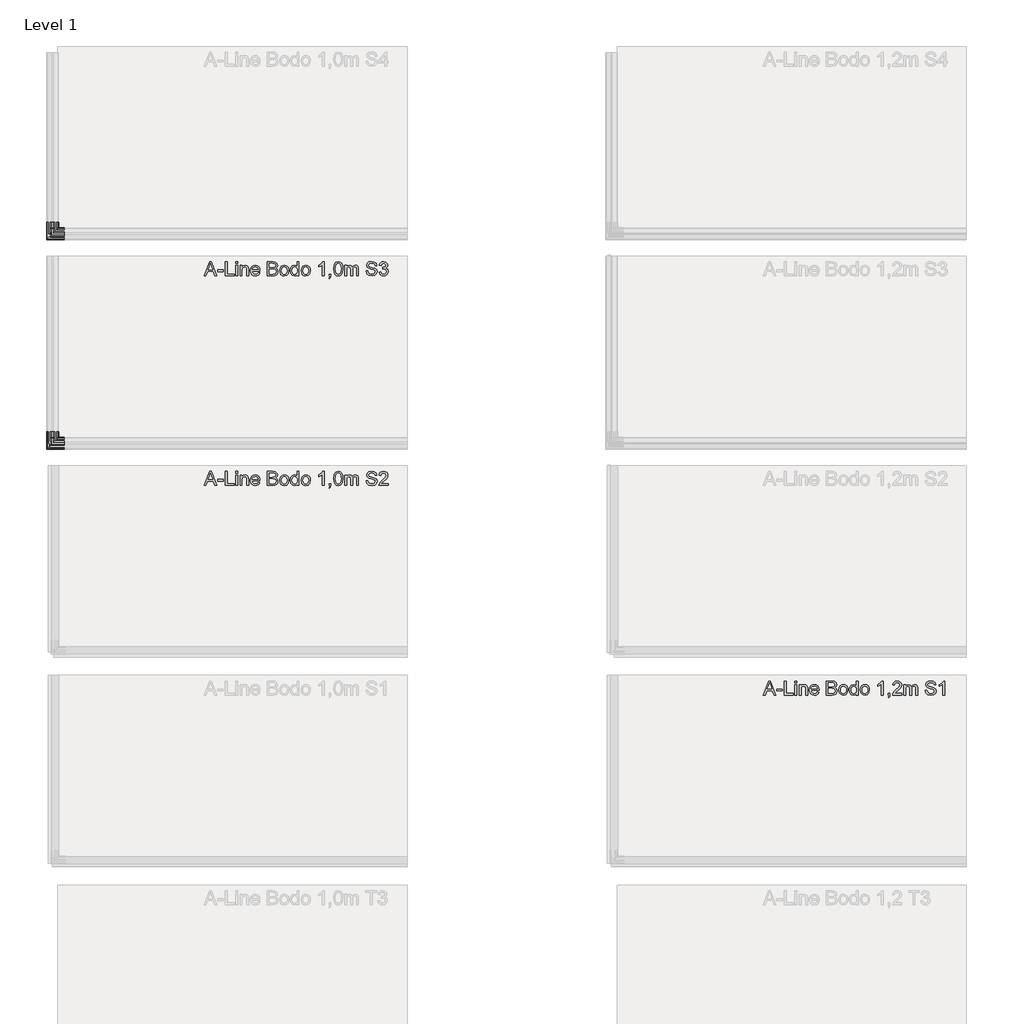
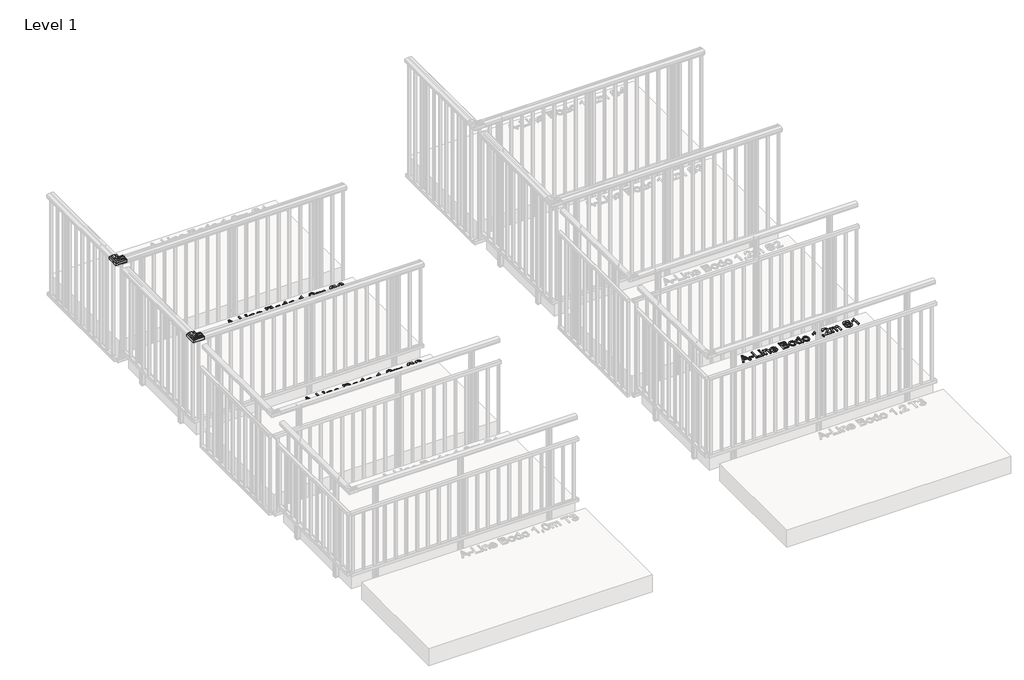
# One storey, part 50 of 66: 5 proxies.
"""IFC4 building model written with IfcOpenShell, lengths in millimetres."""

from ifc_helpers import new_model, si_unit, origin, origin_with_axes, place, context, project, spatial, polyline, outline, extrude, transform, mapped, element, save
from components import generic_models_224f447f

model = new_model("IFC4")

# Units and contexts
model_context = context("Model", 3, world=origin())
ifc_project = project(units=[si_unit("LENGTHUNIT", "METRE", prefix="MILLI")], contexts=[model_context])

# Site, building, storey
site = spatial("IfcSite", under=ifc_project)
building = spatial("IfcBuilding", under=site)
storey = spatial("IfcBuildingStorey", under=building, Name="Level 1", Elevation=0.0)

# Proxies
placement = place(None, origin())
generic_models_shape = generic_models_224f447f(model_context)
element("IfcBuildingElementProxy", 1, Name="Innore top rail 81x35 corner element : Innore top rail 81x35 element", ObjectType="Innore top rail 81x35 corner element : Innore top rail 81x35 element", at=placement, inside=storey, context=model_context, shape_type="MappedRepresentation", body=[
    mapped(generic_models_shape, transform((4465.5540282, -14608.211505, 1000.0), x_axis=(0.0, -1.0, 0.0), y_axis=(1.0, 0.0, 0.0), z_axis=(0.0, 0.0, 1.0))),
])
element("IfcBuildingElementProxy", 2, Name="Innore top rail 81x35 corner element : Innore top rail 81x35 element", ObjectType="Innore top rail 81x35 corner element : Innore top rail 81x35 element", at=placement, inside=storey, context=model_context, shape_type="MappedRepresentation", body=[
    mapped(generic_models_shape, transform((4465.4055183, -13109.7805179, 1000.0), x_axis=(0.0, -1.0, 0.0), y_axis=(1.0, 0.0, 0.0), z_axis=(0.0, 0.0, 1.0))),
])
element("IfcBuildingElementProxy", 3, Name="100mm Arial", ObjectType="100mm Arial", at=placement, inside=storey, context=model_context, shape_type="SweptSolid", body=[
    extrude(outline(polyline([(5549.8662562, -14909.7113559), (5589.9653937, -14809.2550458), (5600.658497, -14809.2550458), (5640.7576345, -14909.7113559), (5627.4893572, -14909.7113559), (5615.9869135, -14878.318759), (5574.6124518, -14878.318759), (5563.1345335, -14909.7113559), (5549.8662562, -14909.7113559)]), holes=[polyline([(5579.2232395, -14865.7617202), (5611.4006513, -14865.7617202), (5602.3507542, -14841.0645756), (5595.3119454, -14821.8120845), (5589.0579515, -14838.9063346), (5579.2232395, -14865.7617202)])]), origin_with_axes(), (0.0, 0.0, 1.0), 10.0),
    extrude(outline(polyline([(5646.3249154, -14879.8883888), (5646.3249154, -14867.3313501), (5685.5656615, -14867.3313501), (5685.5656615, -14879.8883888), (5646.3249154, -14879.8883888)])), origin_with_axes(), (0.0, 0.0, 1.0), 10.0),
    extrude(outline(polyline([(5701.26196, -14909.7113559), (5701.26196, -14809.2550458), (5713.8189988, -14809.2550458), (5713.8189988, -14897.1543171), (5764.0471538, -14897.1543171), (5764.0471538, -14909.7113559), (5701.26196, -14909.7113559)])), origin_with_axes(), (0.0, 0.0, 1.0), 10.0),
    extrude(outline(polyline([(5776.6041926, -14821.8120845), (5776.6041926, -14809.2550458), (5789.1612314, -14809.2550458), (5789.1612314, -14821.8120845), (5776.6041926, -14821.8120845)])), origin_with_axes(), (0.0, 0.0, 1.0), 10.0),
    extrude(outline(polyline([(5776.6041926, -14909.7113559), (5776.6041926, -14835.9387532), (5789.1612314, -14835.9387532), (5789.1612314, -14909.7113559), (5776.6041926, -14909.7113559)])), origin_with_axes(), (0.0, 0.0, 1.0), 10.0),
    extrude(outline(polyline([(5807.9967895, -14909.7113559), (5807.9967895, -14835.9387532), (5820.5538283, -14835.9387532), (5820.5538283, -14846.239449), (5830.1555484, -14837.3367047), (5843.2644101, -14834.3691233), (5855.1224731, -14836.7603563), (5863.215877, -14843.0388757), (5866.9805361, -14852.2727137), (5867.6427237, -14864.4128196), (5867.6427237, -14909.7113559), (5855.0856849, -14909.7113559), (5855.0856849, -14866.1050768), (5853.6386824, -14854.9950405), (5848.5251227, -14849.1211913), (5839.9044212, -14846.9261621), (5826.2805247, -14851.8557808), (5821.9855024, -14858.9988229), (5820.5538283, -14870.5687116), (5820.5538283, -14909.7113559), (5807.9967895, -14909.7113559)])), origin_with_axes(), (0.0, 0.0, 1.0), 10.0),
    extrude(outline(polyline([(5936.5592841, -14887.7365381), (5948.8710682, -14889.3061679), (5944.4350245, -14898.5829256), (5937.3563618, -14905.5175012), (5927.7944956, -14909.8401146), (5915.9088414, -14911.2809858), (5901.1751675, -14908.7947166), (5889.8382707, -14901.3359092), (5882.6093895, -14889.3889414), (5880.1997624, -14873.4381912), (5882.633915, -14856.9509464), (5889.9363726, -14844.6207682), (5901.1199852, -14836.9320345), (5915.1976029, -14834.3691233), (5928.8368279, -14836.9259032), (5939.735332, -14844.5962428), (5946.8814398, -14856.9018955), (5949.2634757, -14873.3646148), (5949.1898993, -14876.7491291), (5892.7568012, -14876.7491291), (5894.9303707, -14886.1485141), (5899.9795511, -14893.0585643), (5907.2666802, -14897.3076013), (5916.1540961, -14898.723947), (5928.4658802, -14896.0997221), (5936.5592841, -14887.7365381)]), holes=[polyline([(5892.7568012, -14864.1920904), (5936.7064369, -14864.1920904), (5931.6787163, -14852.812274), (5924.3578646, -14848.3976901), (5915.148552, -14846.9261621), (5899.6852455, -14851.6227889), (5894.8200061, -14857.1134277), (5892.7568012, -14864.1920904)])]), origin_with_axes(), (0.0, 0.0, 1.0), 10.0),
    extrude(outline(polyline([(6002.6308904, -14909.7113559), (6002.6308904, -14809.2550458), (6040.9641943, -14809.2550458), (6059.7384388, -14812.2103645), (6070.8239496, -14821.2970497), (6074.8338634, -14834.1483941), (6071.4616117, -14845.8838298), (6061.2712805, -14854.7743113), (6073.6443782, -14864.1430394), (6077.973123, -14879.7657615), (6075.0178044, -14893.2670307), (6067.6969527, -14902.8810135), (6056.7708574, -14907.9823105), (6040.6698887, -14909.7113559), (6002.6308904, -14909.7113559)]), holes=[polyline([(6015.1879292, -14897.1543171), (6040.9396689, -14897.1543171), (6050.2593461, -14896.6638078), (6058.1442835, -14893.9292183), (6063.3682078, -14888.3496747), (6065.4160843, -14879.8883888), (6063.0125886, -14870.1272532), (6055.225753, -14864.302455), (6039.7133956, -14862.6224605), (6015.1879292, -14862.6224605), (6015.1879292, -14897.1543171)]), polyline([(6015.1879292, -14850.0654218), (6038.1192402, -14850.0654218), (6051.5101449, -14848.9863012), (6059.5667606, -14844.3387254), (6062.2768246, -14836.1594823), (6059.7507016, -14827.9679766), (6052.515689, -14823.124197), (6036.3779321, -14821.8120845), (6015.1879292, -14821.8120845), (6015.1879292, -14850.0654218)])]), origin_with_axes(), (0.0, 0.0, 1.0), 10.0),
    extrude(outline(polyline([(6090.5301618, -14872.8250545), (6093.2463572, -14855.0379601), (6101.3949434, -14842.5361036), (6111.4626473, -14836.4108684), (6123.5169141, -14834.3691233), (6136.7085493, -14836.8553925), (6147.2453027, -14844.3141999), (6154.1522872, -14856.1569345), (6156.4546154, -14871.7949849), (6152.3833879, -14894.1376848), (6140.525325, -14906.7805627), (6123.5169141, -14911.2809858), (6110.1658633, -14908.8039137), (6099.6413726, -14901.3726974), (6092.8079645, -14889.2816425), (6090.5301618, -14872.8250545)]), holes=[polyline([(6103.0872006, -14872.8005291), (6104.5403345, -14884.165017), (6108.8997361, -14892.2614866), (6115.4602984, -14897.1083319), (6123.5169141, -14898.723947), (6131.5367415, -14897.0991348), (6138.0850411, -14892.2246984), (6142.4444427, -14884.0209299), (6143.8975766, -14872.4081216), (6142.4352457, -14861.3747274), (6138.0482529, -14853.3886225), (6131.4907563, -14848.5417772), (6123.5169141, -14846.9261621), (6115.4602984, -14848.5356458), (6108.8997361, -14853.364097), (6104.5403345, -14861.4421725), (6103.0872006, -14872.8005291)])]), origin_with_axes(), (0.0, 0.0, 1.0), 10.0),
    extrude(outline(polyline([(6216.1005495, -14909.7113559), (6216.1005495, -14897.8655557), (6207.7925478, -14907.9271282), (6196.3084982, -14911.2809858), (6180.7593525, -14906.4249434), (6169.7719436, -14892.8746233), (6165.8723944, -14872.8986309), (6169.4653753, -14852.9103759), (6180.232055, -14839.1515892), (6196.2594472, -14834.3691233), (6207.8354673, -14837.7904259), (6216.1005495, -14846.6809074), (6216.1005495, -14809.2550458), (6228.6575883, -14809.2550458), (6228.6575883, -14909.7113559), (6216.1005495, -14909.7113559)]), holes=[polyline([(6178.4294332, -14872.84958), (6179.8457789, -14884.2079366), (6184.0948159, -14892.2860121), (6190.2691021, -14897.1144633), (6197.4611951, -14898.723947), (6204.6502224, -14897.1880397), (6210.6681587, -14892.5803177), (6214.7424518, -14884.8149419), (6216.1005495, -14873.8060732), (6214.7179263, -14861.7702006), (6210.5700568, -14853.4254107), (6204.3988364, -14848.5509742), (6196.9461603, -14846.9261621), (6189.6804909, -14848.4865949), (6183.7269339, -14853.1678933), (6179.7538084, -14861.2091805), (6178.4294332, -14872.84958)])]), origin_with_axes(), (0.0, 0.0, 1.0), 10.0),
    extrude(outline(polyline([(6244.3538867, -14872.8250545), (6247.0700821, -14855.0379601), (6255.2186683, -14842.5361036), (6265.2863723, -14836.4108684), (6277.340639, -14834.3691233), (6290.5322742, -14836.8553925), (6301.0690277, -14844.3141999), (6307.9760121, -14856.1569345), (6310.2783403, -14871.7949849), (6306.2071129, -14894.1376848), (6294.3490499, -14906.7805627), (6277.340639, -14911.2809858), (6263.9895882, -14908.8039137), (6253.4650975, -14901.3726974), (6246.6316894, -14889.2816425), (6244.3538867, -14872.8250545)]), holes=[polyline([(6256.9109255, -14872.8005291), (6258.3640594, -14884.165017), (6262.723461, -14892.2614866), (6269.2840233, -14897.1083319), (6277.340639, -14898.723947), (6285.3604665, -14897.0991348), (6291.908766, -14892.2246984), (6296.2681676, -14884.0209299), (6297.7213015, -14872.4081216), (6296.2589706, -14861.3747274), (6291.8719778, -14853.3886225), (6285.3144812, -14848.5417772), (6277.340639, -14846.9261621), (6269.2840233, -14848.5356458), (6262.723461, -14853.364097), (6258.3640594, -14861.4421725), (6256.9109255, -14872.8005291)])]), origin_with_axes(), (0.0, 0.0, 1.0), 10.0),
    extrude(outline(polyline([(6407.5953907, -14909.7113559), (6395.038352, -14909.7113559), (6395.038352, -14831.4260673), (6383.1435008, -14839.899616), (6369.9242744, -14846.239449), (6369.9242744, -14834.3691233), (6388.3306369, -14822.6214249), (6399.5019868, -14809.2550458), (6407.5953907, -14809.2550458), (6407.5953907, -14909.7113559)])), origin_with_axes(), (0.0, 0.0, 1.0), 10.0),
    extrude(outline(polyline([(6443.6968772, -14909.7113559), (6443.6968772, -14897.1543171), (6456.253916, -14897.1543171), (6456.253916, -14909.7113559), (6453.9975731, -14922.5504375), (6446.8361369, -14930.1165439), (6443.6968772, -14925.4076544), (6448.3076649, -14919.9875263), (6449.9508711, -14909.7113559), (6443.6968772, -14909.7113559)])), origin_with_axes(), (0.0, 0.0, 1.0), 10.0),
    extrude(outline(polyline([(6476.659104, -14860.2925412), (6480.3501866, -14831.3892791), (6491.3130701, -14814.7242248), (6509.6213307, -14809.2550458), (6524.2875596, -14812.4924073), (6534.4165772, -14821.8243473), (6540.3026891, -14836.6867799), (6542.5835575, -14860.2925412), (6538.929263, -14889.073176), (6528.0031677, -14905.7750186), (6519.7718081, -14909.904494), (6509.6213307, -14911.2809858), (6496.5737826, -14908.8897528), (6486.6654942, -14901.7160539), (6479.1607015, -14884.7260371), (6476.659104, -14860.2925412)]), holes=[polyline([(6489.2161427, -14860.2680158), (6490.6876707, -14880.0202132), (6495.1022546, -14891.4521462), (6501.6750796, -14896.9059968), (6509.6213307, -14898.723947), (6517.5675818, -14896.8998654), (6524.1404068, -14891.4276208), (6528.5549907, -14879.9895564), (6530.0265187, -14860.2680158), (6528.6040417, -14840.9603424), (6524.3366105, -14829.4395046), (6517.7760483, -14823.7189395), (6509.4741779, -14821.8120845), (6501.613766, -14823.492079), (6495.2984584, -14828.5320623), (6490.7367216, -14840.77027), (6489.2161427, -14860.2680158)])]), origin_with_axes(), (0.0, 0.0, 1.0), 10.0),
    extrude(outline(polyline([(6556.7102261, -14909.7113559), (6556.7102261, -14835.9387532), (6569.2672649, -14835.9387532), (6569.2672649, -14848.078859), (6577.900229, -14838.1337824), (6590.1874877, -14834.3691233), (6602.7690519, -14838.2073588), (6609.6852334, -14848.9617758), (6619.4831572, -14838.0172864), (6631.856255, -14834.3691233), (6641.2954938, -14835.8866365), (6648.2760547, -14840.4391762), (6652.5894711, -14848.1493697), (6654.0272766, -14859.1398443), (6654.0272766, -14909.7113559), (6641.4702378, -14909.7113559), (6641.4702378, -14864.5354469), (6640.3052781, -14854.05081), (6636.0868979, -14848.8881994), (6628.913199, -14846.9261621), (6616.5646267, -14851.9538827), (6612.8766097, -14858.4960508), (6611.6472707, -14868.0671141), (6611.6472707, -14909.7113559), (6599.090232, -14909.7113559), (6599.090232, -14863.1374953), (6596.1839642, -14850.972864), (6586.6558205, -14846.9261621), (6577.3606688, -14849.6239634), (6571.1802513, -14857.5211635), (6569.2672649, -14872.5062235), (6569.2672649, -14909.7113559), (6556.7102261, -14909.7113559)])), origin_with_axes(), (0.0, 0.0, 1.0), 10.0),
    extrude(outline(polyline([(6708.9643212, -14875.1794993), (6721.5213599, -14875.1794993), (6725.5680619, -14887.7488008), (6735.4518248, -14895.6950519), (6750.5104612, -14898.723947), (6763.6315857, -14896.4308159), (6772.1051343, -14890.127771), (6774.8887747, -14881.7032734), (6772.8041101, -14873.8673869), (6764.2692478, -14868.1652159), (6745.9855126, -14863.3704873), (6726.3038259, -14857.177807), (6715.6229853, -14847.8336043), (6712.1035809, -14835.350142), (6716.4568511, -14821.1376342), (6729.1733054, -14811.1067185), (6747.7881344, -14807.6854159), (6767.6537621, -14811.266134), (6780.897514, -14821.7875591), (6785.8761836, -14837.508383), (6773.3191449, -14837.508383), (6771.013751, -14830.015853), (6766.2067596, -14824.6079877), (6748.2786437, -14820.2424547), (6730.3014769, -14824.5589368), (6724.6606196, -14834.98226), (6728.6582707, -14843.6888005), (6749.1615605, -14850.7030839), (6771.381633, -14857.0061287), (6783.5340016, -14867.1841973), (6787.4458135, -14881.3844423), (6782.9453904, -14896.4062904), (6769.9959442, -14907.3691739), (6751.0009705, -14911.2809858), (6728.5724315, -14907.0626056), (6714.3844492, -14894.358414), (6708.9643212, -14875.1794993)])), origin_with_axes(), (0.0, 0.0, 1.0), 10.0),
    extrude(outline(polyline([(6865.9273058, -14897.1543171), (6865.9273058, -14909.7113559), (6800.0028523, -14909.7113559), (6801.3517529, -14901.0538663), (6808.9791729, -14887.7242753), (6824.6999969, -14873.1684111), (6846.3805091, -14852.2481883), (6851.8006372, -14838.0234178), (6846.6870774, -14826.5087113), (6833.332961, -14821.8120845), (6819.4147589, -14826.3983467), (6814.1295209, -14839.0780128), (6801.5724821, -14837.508383), (6804.6167056, -14825.3621458), (6811.1987276, -14816.4900583), (6820.9751917, -14811.0637989), (6833.6027411, -14809.2550458), (6846.3222611, -14811.266134), (6856.080331, -14817.2993987), (6862.2883397, -14826.3125076), (6864.3576759, -14837.2631283), (6862.1258585, -14849.1702422), (6854.7069049, -14861.4820263), (6836.7174754, -14878.686641), (6822.2719757, -14890.7654332), (6816.606593, -14897.1543171), (6865.9273058, -14897.1543171)])), origin_with_axes(), (0.0, 0.0, 1.0), 10.0),
])
element("IfcBuildingElementProxy", 4, Name="100mm Arial", ObjectType="100mm Arial", at=placement, inside=storey, context=model_context, shape_type="SweptSolid", body=[
    extrude(outline(polyline([(5549.8662562, -13409.7113559), (5589.9653937, -13309.2550458), (5600.658497, -13309.2550458), (5640.7576345, -13409.7113559), (5627.4893572, -13409.7113559), (5615.9869135, -13378.318759), (5574.6124518, -13378.318759), (5563.1345335, -13409.7113559), (5549.8662562, -13409.7113559)]), holes=[polyline([(5579.2232395, -13365.7617202), (5611.4006513, -13365.7617202), (5602.3507542, -13341.0645756), (5595.3119454, -13321.8120845), (5589.0579515, -13338.9063346), (5579.2232395, -13365.7617202)])]), origin_with_axes(), (0.0, 0.0, 1.0), 10.0),
    extrude(outline(polyline([(5646.3249154, -13379.8883888), (5646.3249154, -13367.3313501), (5685.5656615, -13367.3313501), (5685.5656615, -13379.8883888), (5646.3249154, -13379.8883888)])), origin_with_axes(), (0.0, 0.0, 1.0), 10.0),
    extrude(outline(polyline([(5701.26196, -13409.7113559), (5701.26196, -13309.2550458), (5713.8189988, -13309.2550458), (5713.8189988, -13397.1543171), (5764.0471538, -13397.1543171), (5764.0471538, -13409.7113559), (5701.26196, -13409.7113559)])), origin_with_axes(), (0.0, 0.0, 1.0), 10.0),
    extrude(outline(polyline([(5776.6041926, -13321.8120845), (5776.6041926, -13309.2550458), (5789.1612314, -13309.2550458), (5789.1612314, -13321.8120845), (5776.6041926, -13321.8120845)])), origin_with_axes(), (0.0, 0.0, 1.0), 10.0),
    extrude(outline(polyline([(5776.6041926, -13409.7113559), (5776.6041926, -13335.9387532), (5789.1612314, -13335.9387532), (5789.1612314, -13409.7113559), (5776.6041926, -13409.7113559)])), origin_with_axes(), (0.0, 0.0, 1.0), 10.0),
    extrude(outline(polyline([(5807.9967895, -13409.7113559), (5807.9967895, -13335.9387532), (5820.5538283, -13335.9387532), (5820.5538283, -13346.239449), (5830.1555484, -13337.3367047), (5843.2644101, -13334.3691233), (5855.1224731, -13336.7603563), (5863.215877, -13343.0388757), (5866.9805361, -13352.2727137), (5867.6427237, -13364.4128196), (5867.6427237, -13409.7113559), (5855.0856849, -13409.7113559), (5855.0856849, -13366.1050768), (5853.6386824, -13354.9950405), (5848.5251227, -13349.1211913), (5839.9044212, -13346.9261621), (5826.2805247, -13351.8557808), (5821.9855024, -13358.9988229), (5820.5538283, -13370.5687116), (5820.5538283, -13409.7113559), (5807.9967895, -13409.7113559)])), origin_with_axes(), (0.0, 0.0, 1.0), 10.0),
    extrude(outline(polyline([(5936.5592841, -13387.7365381), (5948.8710682, -13389.3061679), (5944.4350245, -13398.5829256), (5937.3563618, -13405.5175012), (5927.7944956, -13409.8401146), (5915.9088414, -13411.2809858), (5901.1751675, -13408.7947166), (5889.8382707, -13401.3359092), (5882.6093895, -13389.3889414), (5880.1997624, -13373.4381912), (5882.633915, -13356.9509464), (5889.9363726, -13344.6207682), (5901.1199852, -13336.9320345), (5915.1976029, -13334.3691233), (5928.8368279, -13336.9259032), (5939.735332, -13344.5962428), (5946.8814398, -13356.9018955), (5949.2634757, -13373.3646148), (5949.1898993, -13376.7491291), (5892.7568012, -13376.7491291), (5894.9303707, -13386.1485141), (5899.9795511, -13393.0585643), (5907.2666802, -13397.3076013), (5916.1540961, -13398.723947), (5928.4658802, -13396.0997221), (5936.5592841, -13387.7365381)]), holes=[polyline([(5892.7568012, -13364.1920904), (5936.7064369, -13364.1920904), (5931.6787163, -13352.812274), (5924.3578646, -13348.3976901), (5915.148552, -13346.9261621), (5899.6852455, -13351.6227889), (5894.8200061, -13357.1134277), (5892.7568012, -13364.1920904)])]), origin_with_axes(), (0.0, 0.0, 1.0), 10.0),
    extrude(outline(polyline([(6002.6308904, -13409.7113559), (6002.6308904, -13309.2550458), (6040.9641943, -13309.2550458), (6059.7384388, -13312.2103645), (6070.8239496, -13321.2970497), (6074.8338634, -13334.1483941), (6071.4616117, -13345.8838298), (6061.2712805, -13354.7743113), (6073.6443782, -13364.1430394), (6077.973123, -13379.7657615), (6075.0178044, -13393.2670307), (6067.6969527, -13402.8810135), (6056.7708574, -13407.9823105), (6040.6698887, -13409.7113559), (6002.6308904, -13409.7113559)]), holes=[polyline([(6015.1879292, -13397.1543171), (6040.9396689, -13397.1543171), (6050.2593461, -13396.6638078), (6058.1442835, -13393.9292183), (6063.3682078, -13388.3496747), (6065.4160843, -13379.8883888), (6063.0125886, -13370.1272532), (6055.225753, -13364.302455), (6039.7133956, -13362.6224605), (6015.1879292, -13362.6224605), (6015.1879292, -13397.1543171)]), polyline([(6015.1879292, -13350.0654218), (6038.1192402, -13350.0654218), (6051.5101449, -13348.9863012), (6059.5667606, -13344.3387254), (6062.2768246, -13336.1594823), (6059.7507016, -13327.9679766), (6052.515689, -13323.124197), (6036.3779321, -13321.8120845), (6015.1879292, -13321.8120845), (6015.1879292, -13350.0654218)])]), origin_with_axes(), (0.0, 0.0, 1.0), 10.0),
    extrude(outline(polyline([(6090.5301618, -13372.8250545), (6093.2463572, -13355.0379601), (6101.3949434, -13342.5361036), (6111.4626473, -13336.4108684), (6123.5169141, -13334.3691233), (6136.7085493, -13336.8553925), (6147.2453027, -13344.3141999), (6154.1522872, -13356.1569345), (6156.4546154, -13371.7949849), (6152.3833879, -13394.1376848), (6140.525325, -13406.7805627), (6123.5169141, -13411.2809858), (6110.1658633, -13408.8039137), (6099.6413726, -13401.3726974), (6092.8079645, -13389.2816425), (6090.5301618, -13372.8250545)]), holes=[polyline([(6103.0872006, -13372.8005291), (6104.5403345, -13384.165017), (6108.8997361, -13392.2614866), (6115.4602984, -13397.1083319), (6123.5169141, -13398.723947), (6131.5367415, -13397.0991348), (6138.0850411, -13392.2246984), (6142.4444427, -13384.0209299), (6143.8975766, -13372.4081216), (6142.4352457, -13361.3747274), (6138.0482529, -13353.3886225), (6131.4907563, -13348.5417772), (6123.5169141, -13346.9261621), (6115.4602984, -13348.5356458), (6108.8997361, -13353.364097), (6104.5403345, -13361.4421725), (6103.0872006, -13372.8005291)])]), origin_with_axes(), (0.0, 0.0, 1.0), 10.0),
    extrude(outline(polyline([(6216.1005495, -13409.7113559), (6216.1005495, -13397.8655557), (6207.7925478, -13407.9271282), (6196.3084982, -13411.2809858), (6180.7593525, -13406.4249434), (6169.7719436, -13392.8746233), (6165.8723944, -13372.8986309), (6169.4653753, -13352.9103759), (6180.232055, -13339.1515892), (6196.2594472, -13334.3691233), (6207.8354673, -13337.7904259), (6216.1005495, -13346.6809074), (6216.1005495, -13309.2550458), (6228.6575883, -13309.2550458), (6228.6575883, -13409.7113559), (6216.1005495, -13409.7113559)]), holes=[polyline([(6178.4294332, -13372.84958), (6179.8457789, -13384.2079366), (6184.0948159, -13392.2860121), (6190.2691021, -13397.1144633), (6197.4611951, -13398.723947), (6204.6502224, -13397.1880397), (6210.6681587, -13392.5803177), (6214.7424518, -13384.8149419), (6216.1005495, -13373.8060732), (6214.7179263, -13361.7702006), (6210.5700568, -13353.4254107), (6204.3988364, -13348.5509742), (6196.9461603, -13346.9261621), (6189.6804909, -13348.4865949), (6183.7269339, -13353.1678933), (6179.7538084, -13361.2091805), (6178.4294332, -13372.84958)])]), origin_with_axes(), (0.0, 0.0, 1.0), 10.0),
    extrude(outline(polyline([(6244.3538867, -13372.8250545), (6247.0700821, -13355.0379601), (6255.2186683, -13342.5361036), (6265.2863723, -13336.4108684), (6277.340639, -13334.3691233), (6290.5322742, -13336.8553925), (6301.0690277, -13344.3141999), (6307.9760121, -13356.1569345), (6310.2783403, -13371.7949849), (6306.2071129, -13394.1376848), (6294.3490499, -13406.7805627), (6277.340639, -13411.2809858), (6263.9895882, -13408.8039137), (6253.4650975, -13401.3726974), (6246.6316894, -13389.2816425), (6244.3538867, -13372.8250545)]), holes=[polyline([(6256.9109255, -13372.8005291), (6258.3640594, -13384.165017), (6262.723461, -13392.2614866), (6269.2840233, -13397.1083319), (6277.340639, -13398.723947), (6285.3604665, -13397.0991348), (6291.908766, -13392.2246984), (6296.2681676, -13384.0209299), (6297.7213015, -13372.4081216), (6296.2589706, -13361.3747274), (6291.8719778, -13353.3886225), (6285.3144812, -13348.5417772), (6277.340639, -13346.9261621), (6269.2840233, -13348.5356458), (6262.723461, -13353.364097), (6258.3640594, -13361.4421725), (6256.9109255, -13372.8005291)])]), origin_with_axes(), (0.0, 0.0, 1.0), 10.0),
    extrude(outline(polyline([(6407.5953907, -13409.7113559), (6395.038352, -13409.7113559), (6395.038352, -13331.4260673), (6383.1435008, -13339.899616), (6369.9242744, -13346.239449), (6369.9242744, -13334.3691233), (6388.3306369, -13322.6214249), (6399.5019868, -13309.2550458), (6407.5953907, -13309.2550458), (6407.5953907, -13409.7113559)])), origin_with_axes(), (0.0, 0.0, 1.0), 10.0),
    extrude(outline(polyline([(6443.6968772, -13409.7113559), (6443.6968772, -13397.1543171), (6456.253916, -13397.1543171), (6456.253916, -13409.7113559), (6453.9975731, -13422.5504375), (6446.8361369, -13430.1165439), (6443.6968772, -13425.4076544), (6448.3076649, -13419.9875263), (6449.9508711, -13409.7113559), (6443.6968772, -13409.7113559)])), origin_with_axes(), (0.0, 0.0, 1.0), 10.0),
    extrude(outline(polyline([(6476.659104, -13360.2925412), (6480.3501866, -13331.3892791), (6491.3130701, -13314.7242248), (6509.6213307, -13309.2550458), (6524.2875596, -13312.4924073), (6534.4165772, -13321.8243473), (6540.3026891, -13336.6867799), (6542.5835575, -13360.2925412), (6538.929263, -13389.073176), (6528.0031677, -13405.7750186), (6519.7718081, -13409.904494), (6509.6213307, -13411.2809858), (6496.5737826, -13408.8897528), (6486.6654942, -13401.7160539), (6479.1607015, -13384.7260371), (6476.659104, -13360.2925412)]), holes=[polyline([(6489.2161427, -13360.2680158), (6490.6876707, -13380.0202132), (6495.1022546, -13391.4521462), (6501.6750796, -13396.9059968), (6509.6213307, -13398.723947), (6517.5675818, -13396.8998654), (6524.1404068, -13391.4276208), (6528.5549907, -13379.9895564), (6530.0265187, -13360.2680158), (6528.6040417, -13340.9603424), (6524.3366105, -13329.4395046), (6517.7760483, -13323.7189395), (6509.4741779, -13321.8120845), (6501.613766, -13323.492079), (6495.2984584, -13328.5320623), (6490.7367216, -13340.77027), (6489.2161427, -13360.2680158)])]), origin_with_axes(), (0.0, 0.0, 1.0), 10.0),
    extrude(outline(polyline([(6556.7102261, -13409.7113559), (6556.7102261, -13335.9387532), (6569.2672649, -13335.9387532), (6569.2672649, -13348.078859), (6577.900229, -13338.1337824), (6590.1874877, -13334.3691233), (6602.7690519, -13338.2073588), (6609.6852334, -13348.9617758), (6619.4831572, -13338.0172864), (6631.856255, -13334.3691233), (6641.2954938, -13335.8866365), (6648.2760547, -13340.4391762), (6652.5894711, -13348.1493697), (6654.0272766, -13359.1398443), (6654.0272766, -13409.7113559), (6641.4702378, -13409.7113559), (6641.4702378, -13364.5354469), (6640.3052781, -13354.05081), (6636.0868979, -13348.8881994), (6628.913199, -13346.9261621), (6616.5646267, -13351.9538827), (6612.8766097, -13358.4960508), (6611.6472707, -13368.0671141), (6611.6472707, -13409.7113559), (6599.090232, -13409.7113559), (6599.090232, -13363.1374953), (6596.1839642, -13350.972864), (6586.6558205, -13346.9261621), (6577.3606688, -13349.6239634), (6571.1802513, -13357.5211635), (6569.2672649, -13372.5062235), (6569.2672649, -13409.7113559), (6556.7102261, -13409.7113559)])), origin_with_axes(), (0.0, 0.0, 1.0), 10.0),
    extrude(outline(polyline([(6708.9643212, -13375.1794993), (6721.5213599, -13375.1794993), (6725.5680619, -13387.7488008), (6735.4518248, -13395.6950519), (6750.5104612, -13398.723947), (6763.6315857, -13396.4308159), (6772.1051343, -13390.127771), (6774.8887747, -13381.7032734), (6772.8041101, -13373.8673869), (6764.2692478, -13368.1652159), (6745.9855126, -13363.3704873), (6726.3038259, -13357.177807), (6715.6229853, -13347.8336043), (6712.1035809, -13335.350142), (6716.4568511, -13321.1376342), (6729.1733054, -13311.1067185), (6747.7881344, -13307.6854159), (6767.6537621, -13311.266134), (6780.897514, -13321.7875591), (6785.8761836, -13337.508383), (6773.3191449, -13337.508383), (6771.013751, -13330.015853), (6766.2067596, -13324.6079877), (6748.2786437, -13320.2424547), (6730.3014769, -13324.5589368), (6724.6606196, -13334.98226), (6728.6582707, -13343.6888005), (6749.1615605, -13350.7030839), (6771.381633, -13357.0061287), (6783.5340016, -13367.1841973), (6787.4458135, -13381.3844423), (6782.9453904, -13396.4062904), (6769.9959442, -13407.3691739), (6751.0009705, -13411.2809858), (6728.5724315, -13407.0626056), (6714.3844492, -13394.358414), (6708.9643212, -13375.1794993)])), origin_with_axes(), (0.0, 0.0, 1.0), 10.0),
    extrude(outline(polyline([(6801.5724821, -13383.0276485), (6814.1295209, -13381.4580187), (6821.0579651, -13394.677245), (6834.0196741, -13398.723947), (6842.6281128, -13397.3321268), (6849.2745141, -13393.1566661), (6854.9398969, -13379.373354), (6849.3235651, -13366.3871196), (6835.0497437, -13361.2490344), (6826.2451012, -13362.6224605), (6827.6430528, -13350.0654218), (6829.6541411, -13350.2125746), (6843.903437, -13346.607331), (6848.6491147, -13342.0333315), (6850.2310073, -13335.5218202), (6845.6447451, -13325.699371), (6833.8234703, -13321.8120845), (6821.8550428, -13325.7361592), (6815.6991507, -13337.508383), (6803.1421119, -13335.9387532), (6806.839326, -13324.66317), (6813.4182823, -13316.2448037), (6822.4191285, -13311.0024852), (6833.3820119, -13309.2550458), (6848.5264874, -13312.7008738), (6859.1214889, -13322.1186529), (6862.7880461, -13334.7860562), (6859.3054299, -13346.3620763), (6849.004734, -13354.6762094), (6862.6899442, -13363.2601227), (6867.4969356, -13379.5940832), (6865.0934399, -13391.832291), (6857.8829528, -13402.0594104), (6846.9997771, -13408.9755919), (6833.5782157, -13411.2809858), (6821.4381098, -13409.3128171), (6811.5543469, -13403.4083111), (6804.681085, -13394.3768081), (6801.5724821, -13383.0276485)])), origin_with_axes(), (0.0, 0.0, 1.0), 10.0),
])
element("IfcBuildingElementProxy", 5, Name="100mm Arial", ObjectType="100mm Arial", at=placement, inside=storey, context=model_context, shape_type="SweptSolid", body=[
    extrude(outline(polyline([(9549.8662562, -16409.7113559), (9589.9653937, -16309.2550458), (9600.658497, -16309.2550458), (9640.7576345, -16409.7113559), (9627.4893572, -16409.7113559), (9615.9869135, -16378.318759), (9574.6124518, -16378.318759), (9563.1345335, -16409.7113559), (9549.8662562, -16409.7113559)]), holes=[polyline([(9579.2232395, -16365.7617202), (9611.4006513, -16365.7617202), (9602.3507542, -16341.0645756), (9595.3119454, -16321.8120845), (9589.0579515, -16338.9063346), (9579.2232395, -16365.7617202)])]), origin_with_axes(), (0.0, 0.0, 1.0), 10.0),
    extrude(outline(polyline([(9646.3249154, -16379.8883888), (9646.3249154, -16367.3313501), (9685.5656615, -16367.3313501), (9685.5656615, -16379.8883888), (9646.3249154, -16379.8883888)])), origin_with_axes(), (0.0, 0.0, 1.0), 10.0),
    extrude(outline(polyline([(9701.26196, -16409.7113559), (9701.26196, -16309.2550458), (9713.8189988, -16309.2550458), (9713.8189988, -16397.1543171), (9764.0471538, -16397.1543171), (9764.0471538, -16409.7113559), (9701.26196, -16409.7113559)])), origin_with_axes(), (0.0, 0.0, 1.0), 10.0),
    extrude(outline(polyline([(9776.6041926, -16321.8120845), (9776.6041926, -16309.2550458), (9789.1612314, -16309.2550458), (9789.1612314, -16321.8120845), (9776.6041926, -16321.8120845)])), origin_with_axes(), (0.0, 0.0, 1.0), 10.0),
    extrude(outline(polyline([(9776.6041926, -16409.7113559), (9776.6041926, -16335.9387532), (9789.1612314, -16335.9387532), (9789.1612314, -16409.7113559), (9776.6041926, -16409.7113559)])), origin_with_axes(), (0.0, 0.0, 1.0), 10.0),
    extrude(outline(polyline([(9807.9967895, -16409.7113559), (9807.9967895, -16335.9387532), (9820.5538283, -16335.9387532), (9820.5538283, -16346.239449), (9830.1555484, -16337.3367047), (9843.2644101, -16334.3691233), (9855.1224731, -16336.7603563), (9863.215877, -16343.0388757), (9866.9805361, -16352.2727137), (9867.6427237, -16364.4128196), (9867.6427237, -16409.7113559), (9855.0856849, -16409.7113559), (9855.0856849, -16366.1050768), (9853.6386824, -16354.9950405), (9848.5251227, -16349.1211913), (9839.9044212, -16346.9261621), (9826.2805247, -16351.8557808), (9821.9855024, -16358.9988229), (9820.5538283, -16370.5687116), (9820.5538283, -16409.7113559), (9807.9967895, -16409.7113559)])), origin_with_axes(), (0.0, 0.0, 1.0), 10.0),
    extrude(outline(polyline([(9936.5592841, -16387.7365381), (9948.8710682, -16389.3061679), (9944.4350245, -16398.5829256), (9937.3563618, -16405.5175012), (9927.7944956, -16409.8401146), (9915.9088414, -16411.2809858), (9901.1751675, -16408.7947166), (9889.8382707, -16401.3359092), (9882.6093895, -16389.3889414), (9880.1997624, -16373.4381912), (9882.633915, -16356.9509464), (9889.9363726, -16344.6207682), (9901.1199852, -16336.9320345), (9915.1976029, -16334.3691233), (9928.8368279, -16336.9259032), (9939.735332, -16344.5962428), (9946.8814398, -16356.9018955), (9949.2634757, -16373.3646148), (9949.1898993, -16376.7491291), (9892.7568012, -16376.7491291), (9894.9303707, -16386.1485141), (9899.979551, -16393.0585643), (9907.2666802, -16397.3076013), (9916.1540961, -16398.723947), (9928.4658802, -16396.0997221), (9936.5592841, -16387.7365381)]), holes=[polyline([(9892.7568012, -16364.1920904), (9936.7064369, -16364.1920904), (9931.6787163, -16352.812274), (9924.3578646, -16348.3976901), (9915.148552, -16346.9261621), (9899.6852455, -16351.6227889), (9894.8200061, -16357.1134277), (9892.7568012, -16364.1920904)])]), origin_with_axes(), (0.0, 0.0, 1.0), 10.0),
    extrude(outline(polyline([(10002.6308904, -16409.7113559), (10002.6308904, -16309.2550458), (10040.9641943, -16309.2550458), (10059.7384388, -16312.2103645), (10070.8239496, -16321.2970497), (10074.8338634, -16334.1483941), (10071.4616117, -16345.8838298), (10061.2712805, -16354.7743113), (10073.6443782, -16364.1430394), (10077.973123, -16379.7657615), (10075.0178044, -16393.2670307), (10067.6969527, -16402.8810135), (10056.7708574, -16407.9823105), (10040.6698887, -16409.7113559), (10002.6308904, -16409.7113559)]), holes=[polyline([(10015.1879292, -16397.1543171), (10040.9396689, -16397.1543171), (10050.2593461, -16396.6638078), (10058.1442835, -16393.9292183), (10063.3682078, -16388.3496747), (10065.4160843, -16379.8883888), (10063.0125886, -16370.1272532), (10055.225753, -16364.302455), (10039.7133956, -16362.6224605), (10015.1879292, -16362.6224605), (10015.1879292, -16397.1543171)]), polyline([(10015.1879292, -16350.0654218), (10038.1192402, -16350.0654218), (10051.5101449, -16348.9863012), (10059.5667606, -16344.3387254), (10062.2768246, -16336.1594823), (10059.7507016, -16327.9679766), (10052.515689, -16323.124197), (10036.3779321, -16321.8120845), (10015.1879292, -16321.8120845), (10015.1879292, -16350.0654218)])]), origin_with_axes(), (0.0, 0.0, 1.0), 10.0),
    extrude(outline(polyline([(10090.5301618, -16372.8250545), (10093.2463572, -16355.0379601), (10101.3949434, -16342.5361036), (10111.4626473, -16336.4108684), (10123.5169141, -16334.3691233), (10136.7085493, -16336.8553925), (10147.2453027, -16344.3141999), (10154.1522872, -16356.1569345), (10156.4546154, -16371.7949849), (10152.3833879, -16394.1376848), (10140.525325, -16406.7805627), (10123.5169141, -16411.2809858), (10110.1658633, -16408.8039137), (10099.6413726, -16401.3726974), (10092.8079645, -16389.2816425), (10090.5301618, -16372.8250545)]), holes=[polyline([(10103.0872006, -16372.8005291), (10104.5403345, -16384.165017), (10108.8997361, -16392.2614866), (10115.4602984, -16397.1083319), (10123.5169141, -16398.723947), (10131.5367415, -16397.0991348), (10138.0850411, -16392.2246984), (10142.4444427, -16384.0209299), (10143.8975766, -16372.4081216), (10142.4352457, -16361.3747274), (10138.0482529, -16353.3886225), (10131.4907563, -16348.5417772), (10123.5169141, -16346.9261621), (10115.4602984, -16348.5356458), (10108.8997361, -16353.364097), (10104.5403345, -16361.4421725), (10103.0872006, -16372.8005291)])]), origin_with_axes(), (0.0, 0.0, 1.0), 10.0),
    extrude(outline(polyline([(10216.1005495, -16409.7113559), (10216.1005495, -16397.8655557), (10207.7925478, -16407.9271282), (10196.3084982, -16411.2809858), (10180.7593525, -16406.4249434), (10169.7719436, -16392.8746233), (10165.8723944, -16372.8986309), (10169.4653753, -16352.9103759), (10180.232055, -16339.1515892), (10196.2594472, -16334.3691233), (10207.8354673, -16337.7904259), (10216.1005495, -16346.6809074), (10216.1005495, -16309.2550458), (10228.6575883, -16309.2550458), (10228.6575883, -16409.7113559), (10216.1005495, -16409.7113559)]), holes=[polyline([(10178.4294332, -16372.84958), (10179.8457789, -16384.2079366), (10184.0948159, -16392.2860121), (10190.2691021, -16397.1144633), (10197.4611951, -16398.723947), (10204.6502224, -16397.1880397), (10210.6681587, -16392.5803177), (10214.7424518, -16384.8149419), (10216.1005495, -16373.8060732), (10214.7179263, -16361.7702006), (10210.5700568, -16353.4254107), (10204.3988364, -16348.5509742), (10196.9461603, -16346.9261621), (10189.6804909, -16348.4865949), (10183.7269339, -16353.1678933), (10179.7538084, -16361.2091805), (10178.4294332, -16372.84958)])]), origin_with_axes(), (0.0, 0.0, 1.0), 10.0),
    extrude(outline(polyline([(10244.3538867, -16372.8250545), (10247.0700821, -16355.0379601), (10255.2186683, -16342.5361036), (10265.2863723, -16336.4108684), (10277.340639, -16334.3691233), (10290.5322742, -16336.8553925), (10301.0690277, -16344.3141999), (10307.9760121, -16356.1569345), (10310.2783403, -16371.7949849), (10306.2071129, -16394.1376848), (10294.3490499, -16406.7805627), (10277.340639, -16411.2809858), (10263.9895882, -16408.8039137), (10253.4650975, -16401.3726974), (10246.6316894, -16389.2816425), (10244.3538867, -16372.8250545)]), holes=[polyline([(10256.9109255, -16372.8005291), (10258.3640594, -16384.165017), (10262.723461, -16392.2614866), (10269.2840233, -16397.1083319), (10277.340639, -16398.723947), (10285.3604665, -16397.0991348), (10291.908766, -16392.2246984), (10296.2681676, -16384.0209299), (10297.7213015, -16372.4081216), (10296.2589706, -16361.3747274), (10291.8719778, -16353.3886225), (10285.3144812, -16348.5417772), (10277.340639, -16346.9261621), (10269.2840233, -16348.5356458), (10262.723461, -16353.364097), (10258.3640594, -16361.4421725), (10256.9109255, -16372.8005291)])]), origin_with_axes(), (0.0, 0.0, 1.0), 10.0),
    extrude(outline(polyline([(10407.5953907, -16409.7113559), (10395.038352, -16409.7113559), (10395.038352, -16331.4260673), (10383.1435008, -16339.899616), (10369.9242744, -16346.239449), (10369.9242744, -16334.3691233), (10388.3306369, -16322.6214249), (10399.5019868, -16309.2550458), (10407.5953907, -16309.2550458), (10407.5953907, -16409.7113559)])), origin_with_axes(), (0.0, 0.0, 1.0), 10.0),
    extrude(outline(polyline([(10443.6968772, -16409.7113559), (10443.6968772, -16397.1543171), (10456.253916, -16397.1543171), (10456.253916, -16409.7113559), (10453.9975731, -16422.5504375), (10446.8361369, -16430.1165439), (10443.6968772, -16425.4076544), (10448.3076649, -16419.9875263), (10449.9508711, -16409.7113559), (10443.6968772, -16409.7113559)])), origin_with_axes(), (0.0, 0.0, 1.0), 10.0),
    extrude(outline(polyline([(10541.0139276, -16397.1543171), (10541.0139276, -16409.7113559), (10475.0894741, -16409.7113559), (10476.4383748, -16401.0538663), (10484.0657948, -16387.7242753), (10499.7866187, -16373.1684111), (10521.467131, -16352.2481883), (10526.887259, -16338.0234178), (10521.7736993, -16326.5087113), (10508.4195829, -16321.8120845), (10494.5013807, -16326.3983467), (10489.2161427, -16339.0780128), (10476.659104, -16337.508383), (10479.7033275, -16325.3621458), (10486.2853495, -16316.4900583), (10496.0618135, -16311.0637989), (10508.689363, -16309.2550458), (10521.408883, -16311.266134), (10531.1669529, -16317.2993987), (10537.3749616, -16326.3125076), (10539.4442978, -16337.2631283), (10537.2124804, -16349.1702422), (10529.7935268, -16361.4820263), (10511.8040972, -16378.686641), (10497.3585976, -16390.7654332), (10491.6932148, -16397.1543171), (10541.0139276, -16397.1543171)])), origin_with_axes(), (0.0, 0.0, 1.0), 10.0),
    extrude(outline(polyline([(10556.7102261, -16409.7113559), (10556.7102261, -16335.9387532), (10569.2672649, -16335.9387532), (10569.2672649, -16348.078859), (10577.900229, -16338.1337824), (10590.1874877, -16334.3691233), (10602.7690519, -16338.2073588), (10609.6852334, -16348.9617758), (10619.4831572, -16338.0172864), (10631.856255, -16334.3691233), (10641.2954938, -16335.8866365), (10648.2760547, -16340.4391762), (10652.5894711, -16348.1493697), (10654.0272766, -16359.1398443), (10654.0272766, -16409.7113559), (10641.4702378, -16409.7113559), (10641.4702378, -16364.5354469), (10640.3052781, -16354.05081), (10636.0868979, -16348.8881994), (10628.913199, -16346.9261621), (10616.5646267, -16351.9538827), (10612.8766097, -16358.4960508), (10611.6472707, -16368.0671141), (10611.6472707, -16409.7113559), (10599.090232, -16409.7113559), (10599.090232, -16363.1374953), (10596.1839642, -16350.972864), (10586.6558205, -16346.9261621), (10577.3606688, -16349.6239634), (10571.1802513, -16357.5211635), (10569.2672649, -16372.5062235), (10569.2672649, -16409.7113559), (10556.7102261, -16409.7113559)])), origin_with_axes(), (0.0, 0.0, 1.0), 10.0),
    extrude(outline(polyline([(10708.9643212, -16375.1794993), (10721.5213599, -16375.1794993), (10725.5680619, -16387.7488008), (10735.4518248, -16395.6950519), (10750.5104612, -16398.723947), (10763.6315857, -16396.4308159), (10772.1051343, -16390.127771), (10774.8887747, -16381.7032734), (10772.8041101, -16373.8673869), (10764.2692478, -16368.1652159), (10745.9855126, -16363.3704873), (10726.3038259, -16357.177807), (10715.6229853, -16347.8336043), (10712.1035809, -16335.350142), (10716.4568511, -16321.1376342), (10729.1733054, -16311.1067185), (10747.7881344, -16307.6854159), (10767.6537621, -16311.266134), (10780.897514, -16321.7875591), (10785.8761836, -16337.508383), (10773.3191449, -16337.508383), (10771.013751, -16330.015853), (10766.2067596, -16324.6079877), (10748.2786437, -16320.2424547), (10730.3014769, -16324.5589368), (10724.6606196, -16334.98226), (10728.6582707, -16343.6888005), (10749.1615605, -16350.7030839), (10771.381633, -16357.0061287), (10783.5340016, -16367.1841973), (10787.4458135, -16381.3844423), (10782.9453904, -16396.4062904), (10769.9959442, -16407.3691739), (10751.0009705, -16411.2809858), (10728.5724315, -16407.0626056), (10714.3844492, -16394.358414), (10708.9643212, -16375.1794993)])), origin_with_axes(), (0.0, 0.0, 1.0), 10.0),
    extrude(outline(polyline([(10848.6613775, -16409.7113559), (10836.1043387, -16409.7113559), (10836.1043387, -16331.4260673), (10824.2094875, -16339.899616), (10810.9902612, -16346.239449), (10810.9902612, -16334.3691233), (10829.3966237, -16322.6214249), (10840.5679736, -16309.2550458), (10848.6613775, -16309.2550458), (10848.6613775, -16409.7113559)])), origin_with_axes(), (0.0, 0.0, 1.0), 10.0),
])

save(model, "model.ifc")
